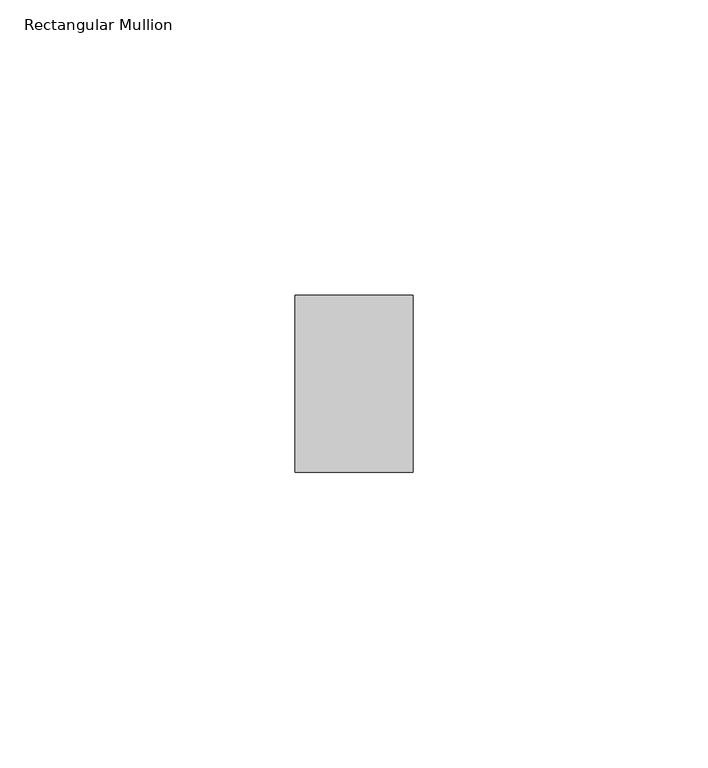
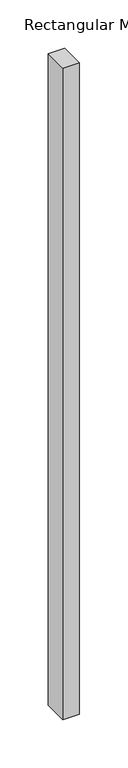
"""IFC4 building model written with IfcOpenShell, lengths in millimetres: member geometry, Rectangular Mullion : ARQ_TV_MULL_30x20mm."""

from ifc_helpers import new_model, si_unit, frame, origin, place, context, project, spatial, polyline, outline, extrude, source, transform, mapped, element, save


def rectangular_mullion_195610a4(model_context):
    return source(origin(), model_context, "Body", "SweptSolid", [
        extrude(outline(polyline([(10.0, 15.0), (10.0, -15.0), (-10.0, -15.0), (-10.0, 15.0), (10.0, 15.0)])), frame((0.0, 0.0, -824.0436542), z_axis=(0.0, 0.0, 1.0), x_axis=(1.0, 0.0, 0.0)), (0.0, 0.0, 1.0), 824.0436542),
    ])


if __name__ == "__main__":
    model = new_model("IFC4")
    model_context = context("Model", 3, world=origin())
    ifc_project = project(units=[si_unit("LENGTHUNIT", "METRE", prefix="MILLI")], contexts=[model_context])
    site = spatial("IfcSite", under=ifc_project)
    building = spatial("IfcBuilding", under=site)
    placement = place(None, origin())
    rectangular_mullion_shape = rectangular_mullion_195610a4(model_context)
    element("IfcMember", 1, ObjectType="Rectangular Mullion : ARQ_TV_MULL_30x20mm", at=placement, inside=building, context=model_context, shape_type="MappedRepresentation", body=[
        mapped(rectangular_mullion_shape, transform((0.0, 0.0, 0.0), x_axis=(1.0, 0.0, 0.0), y_axis=(0.0, 1.0, 0.0), z_axis=(0.0, 0.0, 1.0))),
    ])
    save(model, "model.ifc")
